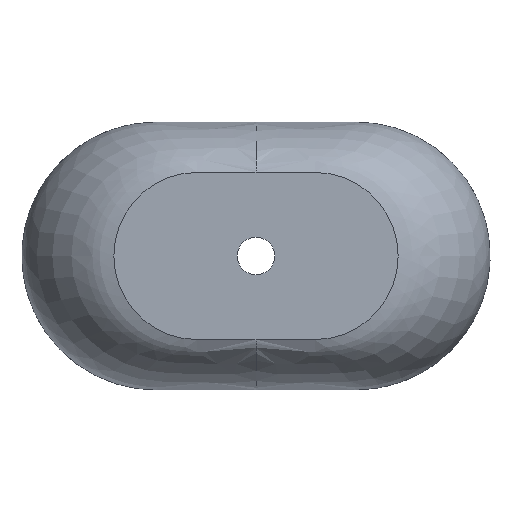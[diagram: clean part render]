
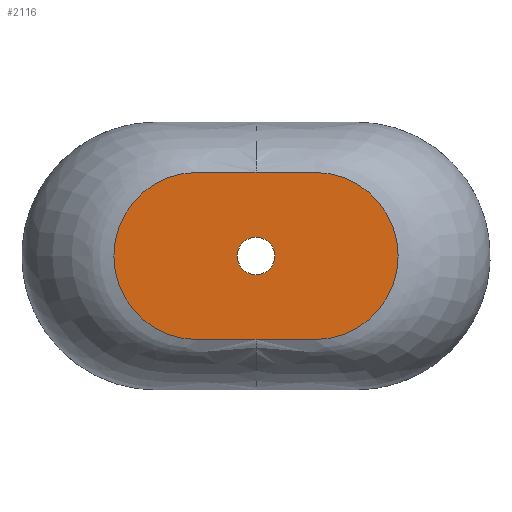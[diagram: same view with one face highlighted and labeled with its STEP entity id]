
A CAD part, front view. The second image highlights one B-rep face of the part: STEP entity #2116.
In plain terms, the highlighted planar face has unit normal (0, -1, 0).
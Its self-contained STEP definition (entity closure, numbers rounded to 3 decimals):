
#12 = ORIENTED_EDGE ( 'NONE', *, *, #145, .F. ) ;
#81 = CARTESIAN_POINT ( 'NONE',  ( 0., -140., -22.5 ) ) ;
#122 = CARTESIAN_POINT ( 'NONE',  ( 0., -140., 22.5 ) ) ;
#145 = EDGE_CURVE ( 'NONE', #1409, #5418, #2649, .T. ) ;
#226 = EDGE_CURVE ( 'NONE', #3047, #4519, #4893, .T. ) ;
#255 = DIRECTION ( 'NONE',  ( 0., 1., 0. ) ) ;
#454 = VECTOR ( 'NONE', #569, 1000. ) ;
#537 = FACE_BOUND ( 'NONE', #3895, .T. ) ;
#569 = DIRECTION ( 'NONE',  ( -1., 0., 0. ) ) ;
#593 = CARTESIAN_POINT ( 'NONE',  ( 70., -140., 100. ) ) ;
#605 = VECTOR ( 'NONE', #4731, 1000. ) ;
#763 = VECTOR ( 'NONE', #3638, 1000. ) ;
#948 = CARTESIAN_POINT ( 'NONE',  ( -70., -140., -100. ) ) ;
#972 = CARTESIAN_POINT ( 'NONE',  ( -70., -140., 0. ) ) ;
#1021 = DIRECTION ( 'NONE',  ( 0., 1., 0. ) ) ;
#1135 = DIRECTION ( 'NONE',  ( 1., 0., 0. ) ) ;
#1188 = CIRCLE ( 'NONE', #3039, 100. ) ;
#1293 = ORIENTED_EDGE ( 'NONE', *, *, #4789, .F. ) ;
#1358 = VERTEX_POINT ( 'NONE', #81 ) ;
#1409 = VERTEX_POINT ( 'NONE', #2819 ) ;
#1421 = EDGE_CURVE ( 'NONE', #4519, #1782, #3681, .T. ) ;
#1483 = CARTESIAN_POINT ( 'NONE',  ( 0., -140., 100. ) ) ;
#1489 = VERTEX_POINT ( 'NONE', #122 ) ;
#1511 = DIRECTION ( 'NONE',  ( 0., 0., 1. ) ) ;
#1515 = DIRECTION ( 'NONE',  ( 0., 0., 1. ) ) ;
#1596 = PLANE ( 'NONE',  #5249 ) ;
#1711 = ORIENTED_EDGE ( 'NONE', *, *, #226, .F. ) ;
#1782 = VERTEX_POINT ( 'NONE', #5406 ) ;
#1842 = CARTESIAN_POINT ( 'NONE',  ( 70., -140., -100. ) ) ;
#1852 = ORIENTED_EDGE ( 'NONE', *, *, #5156, .F. ) ;
#2057 = DIRECTION ( 'NONE',  ( 0., 1., 0. ) ) ;
#2116 = ADVANCED_FACE ( 'NONE', ( #537, #5191 ), #1596, .F. ) ;
#2326 = CARTESIAN_POINT ( 'NONE',  ( -70., -140., 100. ) ) ;
#2366 = EDGE_CURVE ( 'NONE', #1489, #1358, #4009, .T. ) ;
#2389 = DIRECTION ( 'NONE',  ( 0., 1., 0. ) ) ;
#2393 = CARTESIAN_POINT ( 'NONE',  ( -70., -140., -100. ) ) ;
#2451 = EDGE_CURVE ( 'NONE', #1358, #1489, #3093, .T. ) ;
#2479 = ORIENTED_EDGE ( 'NONE', *, *, #2451, .T. ) ;
#2649 = LINE ( 'NONE', #5359, #3836 ) ;
#2819 = CARTESIAN_POINT ( 'NONE',  ( -70., -140., 100. ) ) ;
#2949 = CARTESIAN_POINT ( 'NONE',  ( 70., -140., 0. ) ) ;
#3039 = AXIS2_PLACEMENT_3D ( 'NONE', #972, #4121, #1515 ) ;
#3047 = VERTEX_POINT ( 'NONE', #593 ) ;
#3093 = CIRCLE ( 'NONE', #5539, 22.5 ) ;
#3151 = LINE ( 'NONE', #2326, #605 ) ;
#3533 = ORIENTED_EDGE ( 'NONE', *, *, #3577, .F. ) ;
#3553 = AXIS2_PLACEMENT_3D ( 'NONE', #2949, #255, #1511 ) ;
#3577 = EDGE_CURVE ( 'NONE', #5352, #1409, #1188, .T. ) ;
#3638 = DIRECTION ( 'NONE',  ( -1., 0., 0. ) ) ;
#3681 = LINE ( 'NONE', #4132, #454 ) ;
#3719 = CARTESIAN_POINT ( 'NONE',  ( 0., -140., 0. ) ) ;
#3836 = VECTOR ( 'NONE', #1135, 1000. ) ;
#3895 = EDGE_LOOP ( 'NONE', ( #4454, #2479 ) ) ;
#4009 = CIRCLE ( 'NONE', #4938, 22.5 ) ;
#4121 = DIRECTION ( 'NONE',  ( 0., 1., 0. ) ) ;
#4132 = CARTESIAN_POINT ( 'NONE',  ( -70., -140., -100. ) ) ;
#4171 = DIRECTION ( 'NONE',  ( 0., 0., 1. ) ) ;
#4228 = EDGE_LOOP ( 'NONE', ( #3533, #1293, #5294, #1711, #1852, #12 ) ) ;
#4267 = CARTESIAN_POINT ( 'NONE',  ( -70., -140., 0. ) ) ;
#4454 = ORIENTED_EDGE ( 'NONE', *, *, #2366, .T. ) ;
#4519 = VERTEX_POINT ( 'NONE', #1842 ) ;
#4731 = DIRECTION ( 'NONE',  ( 1., 0., 0. ) ) ;
#4789 = EDGE_CURVE ( 'NONE', #1782, #5352, #5533, .T. ) ;
#4893 = CIRCLE ( 'NONE', #3553, 100. ) ;
#4938 = AXIS2_PLACEMENT_3D ( 'NONE', #3719, #1021, #4171 ) ;
#5072 = CARTESIAN_POINT ( 'NONE',  ( 0., -140., 0. ) ) ;
#5156 = EDGE_CURVE ( 'NONE', #5418, #3047, #3151, .T. ) ;
#5190 = DIRECTION ( 'NONE',  ( 0., 0., 1. ) ) ;
#5191 = FACE_OUTER_BOUND ( 'NONE', #4228, .T. ) ;
#5249 = AXIS2_PLACEMENT_3D ( 'NONE', #4267, #2057, #5190 ) ;
#5294 = ORIENTED_EDGE ( 'NONE', *, *, #1421, .F. ) ;
#5352 = VERTEX_POINT ( 'NONE', #2393 ) ;
#5359 = CARTESIAN_POINT ( 'NONE',  ( -70., -140., 100. ) ) ;
#5406 = CARTESIAN_POINT ( 'NONE',  ( 0., -140., -100. ) ) ;
#5418 = VERTEX_POINT ( 'NONE', #1483 ) ;
#5525 = DIRECTION ( 'NONE',  ( 0., 0., 1. ) ) ;
#5533 = LINE ( 'NONE', #948, #763 ) ;
#5539 = AXIS2_PLACEMENT_3D ( 'NONE', #5072, #2389, #5525 ) ;
